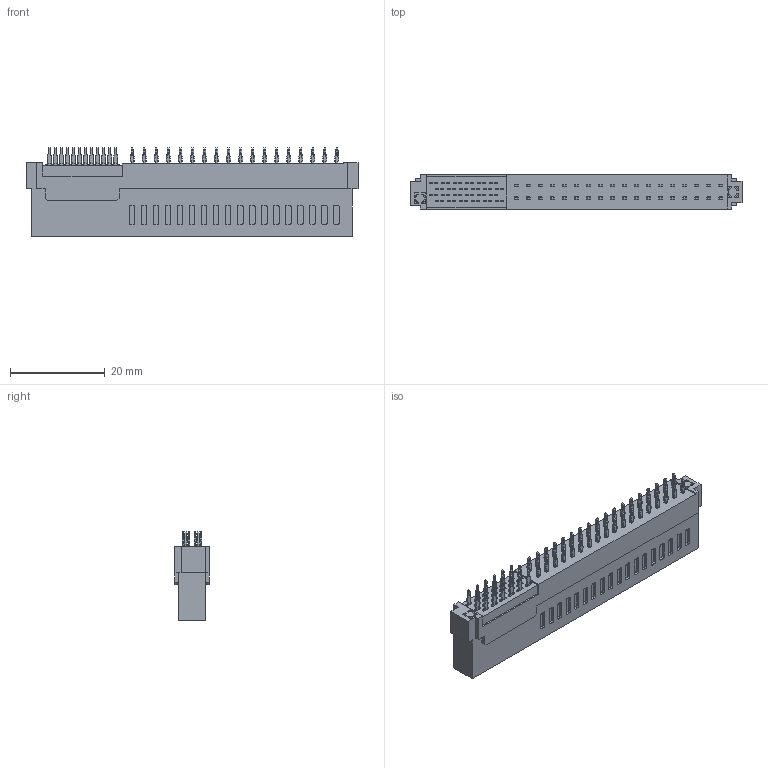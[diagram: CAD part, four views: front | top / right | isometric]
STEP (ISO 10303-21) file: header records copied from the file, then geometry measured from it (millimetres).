
FILE_DESCRIPTION (( 'STEP AP203' ), '1' );
FILE_NAME ('9302-2A1S24N111ACB30PA-.STEP', '2020-07-18T03:10:10', ( '' ), ( '' ), 'SwSTEP 2.0', 'SolidWorks 2011', '' );
FILE_SCHEMA (( 'CONFIG_CONTROL_DESIGN' ));
Products named in the file (1): 9302-2A1S24N111ACB30PA-
Bounding box: 70.06 x 7.24 x 18.66 mm (x, y, z)
Volume: 5159.6 mm3; surface area: 5973.3 mm2
Topology: 1 solids, 25 shells, 3674 faces, 10017 edges, 6388 vertices
Faces by surface type: plane 2085, cylinder 965, bspline 624
Entity records: 126822 total; most frequent: CARTESIAN_POINT 38800, ORIENTED_EDGE 20034, DIRECTION 16131, EDGE_CURVE 10017, LINE 6693, VECTOR 6693, VERTEX_POINT 6388, AXIS2_PLACEMENT_3D 4719
